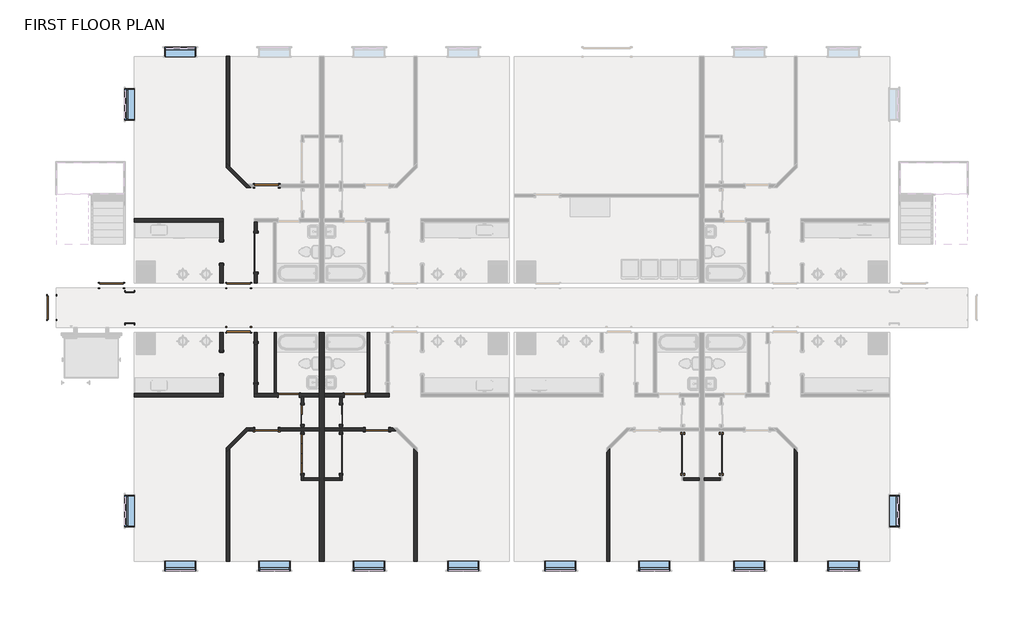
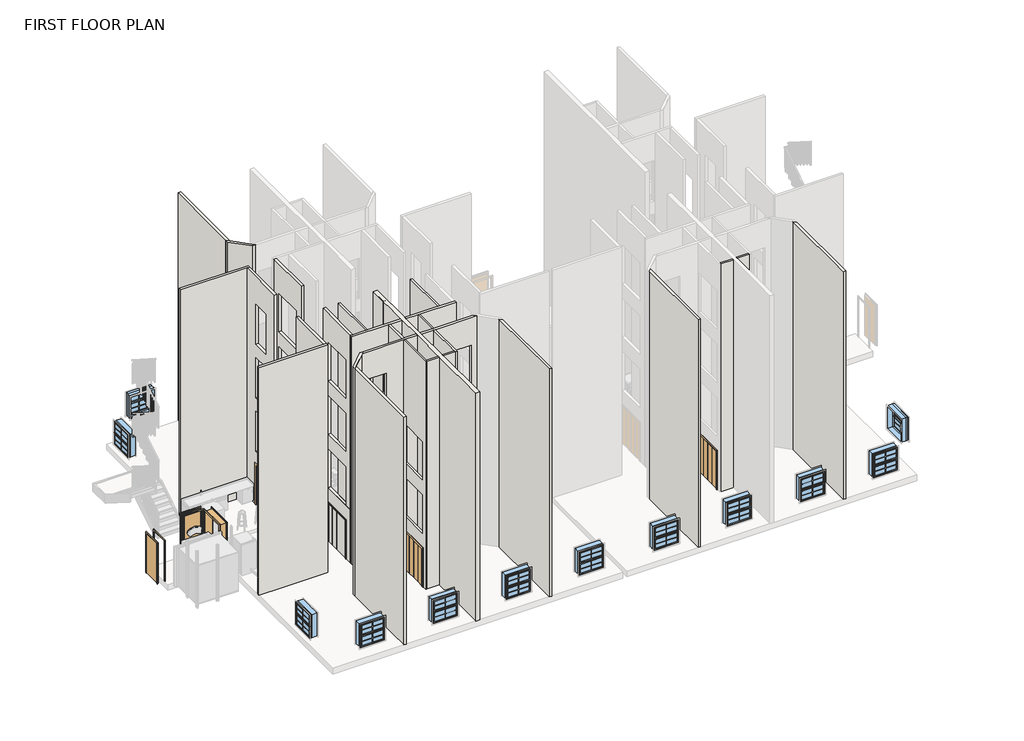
# One storey, part 1 of 7: 28 walls, 20 doors, 12 windows.
"""IFC4 building model written with IfcOpenShell, lengths in millimetres."""

from ifc_helpers import new_model, si_unit, frame, origin, origin_with_axes, place, context, project, spatial, polyline, outline, extrude, faceted_brep, transform, mapped, element, save
from components import door_3f50ce46, door_64f38517, door_5b7037ea, door_d932cd56, door_980512ef, door_37c67c65, door_ff2ed9a9, door_670c294a, door_5d578f69, m_single_flush_3_x_7_d4803db9, m_single_flush_3_x_7_38056b6e, door_dc1527fd, door_ed16ebbe, door_053de108, door_d5256492, door_6897db11, window_4464fd46, window_28d7aabf

model = new_model("IFC4")

# Units and contexts
model_context = context("Model", 3, world=origin())
ifc_project = project(units=[si_unit("LENGTHUNIT", "METRE", prefix="MILLI")], contexts=[model_context])

# Site, building, storey
site = spatial("IfcSite", under=ifc_project)
building = spatial("IfcBuilding", under=site)
storey = spatial("IfcBuildingStorey", under=building, Name="FIRST FLOOR PLAN", Elevation=0.0)

# Doors
placement = place(None, origin())
door_shape = door_3f50ce46(model_context)
element("IfcDoor", 1, ObjectType="Door-Bifold_2-Panel_Flush_SlimFold_Dunbarton : 2'- 6\" x 6' - 8\"", at=placement, inside=storey, context=model_context, shape_type="MappedRepresentation", body=[
    mapped(door_shape, transform((1351.2960171, 1175.3012881, 0.0), x_axis=(0.0, 1.0, 0.0), y_axis=(-1.0, 0.0, 0.0), z_axis=(0.0, 0.0, 1.0))),
])
door_2_shape = door_64f38517(model_context)
element("IfcDoor", 2, ObjectType="Door-Bifold_2-Panel_Flush_SlimFold_Dunbarton : 2'- 6\" x 6' - 8\"", at=placement, inside=storey, context=model_context, shape_type="MappedRepresentation", body=[
    mapped(door_2_shape, transform((2885.3209578, 1175.3012881, 0.0), x_axis=(0.0, 1.0, 0.0), y_axis=(-1.0, 0.0, 0.0), z_axis=(0.0, 0.0, 1.0))),
])
door_3_shape = door_5b7037ea(model_context)
element("IfcDoor", 3, ObjectType="Door-Bifold 4-Panel Flush SlimFold_Dunbarton : 5'- 0\" x 6' - 8\"", at=placement, inside=storey, context=model_context, shape_type="MappedRepresentation", body=[
    mapped(door_3_shape, transform((1351.2960171, -196.2987119, 0.0), x_axis=(0.0, 1.0, 0.0), y_axis=(-1.0, 0.0, 0.0), z_axis=(0.0, 0.0, 1.0))),
])
element("IfcDoor", 4, ObjectType="Door-Bifold 4-Panel Flush SlimFold_Dunbarton : 5'- 0\" x 6' - 8\"", at=placement, inside=storey, context=model_context, shape_type="MappedRepresentation", body=[
    mapped(door_3_shape, transform((16176.4960171, -196.2987119, 0.0), x_axis=(0.0, 1.0, 0.0), y_axis=(-1.0, 0.0, 0.0), z_axis=(0.0, 0.0, 1.0))),
])
door_4_shape = door_d932cd56(model_context)
element("IfcDoor", 5, ObjectType="Door-Bifold 4-Panel Flush SlimFold_Dunbarton : 5'- 0\" x 6' - 8\"", at=placement, inside=storey, context=model_context, shape_type="MappedRepresentation", body=[
    mapped(door_4_shape, transform((-466.3914829, 3345.4137881, 0.0), x_axis=(0.0, 1.0, 0.0), y_axis=(-1.0, 0.0, 0.0), z_axis=(0.0, 0.0, 1.0))),
])
door_5_shape = door_980512ef(model_context)
element("IfcDoor", 6, ObjectType="Door-Bifold 4-Panel Flush SlimFold_Dunbarton : 5'- 0\" x 6' - 8\"", at=placement, inside=storey, context=model_context, shape_type="MappedRepresentation", body=[
    mapped(door_5_shape, transform((-466.3914829, 7654.2137881, 0.0), x_axis=(0.0, -1.0, 0.0), y_axis=(1.0, 0.0, 0.0), z_axis=(0.0, 0.0, 1.0))),
])
door_6_shape = door_37c67c65(model_context)
element("IfcDoor", 7, ObjectType="Door-Bifold 4-Panel Flush SlimFold_Dunbarton : 5'- 0\" x 6' - 8\"", at=placement, inside=storey, context=model_context, shape_type="MappedRepresentation", body=[
    mapped(door_6_shape, transform((2885.3209578, -196.2987119, 0.0), x_axis=(0.0, 1.0, 0.0), y_axis=(-1.0, 0.0, 0.0), z_axis=(0.0, 0.0, 1.0))),
])
element("IfcDoor", 8, ObjectType="Door-Bifold 4-Panel Flush SlimFold_Dunbarton : 5'- 0\" x 6' - 8\"", at=placement, inside=storey, context=model_context, shape_type="MappedRepresentation", body=[
    mapped(door_6_shape, transform((17708.9209578, -196.2987119, 0.0), x_axis=(0.0, 1.0, 0.0), y_axis=(-1.0, 0.0, 0.0), z_axis=(0.0, 0.0, 1.0))),
])
door_7_shape = door_ff2ed9a9(model_context)
element("IfcDoor", 9, ObjectType="M_Opening-Cased : 2'-10\"", at=placement, inside=storey, context=model_context, shape_type="MappedRepresentation", body=[
    mapped(door_7_shape, transform((-1793.4540125, 7662.4024448, 0.0), x_axis=(0.0, 1.0, 0.0), y_axis=(-1.0, 0.0, 0.0), z_axis=(0.0, 0.0, 1.0))),
])
door_8_shape = door_670c294a(model_context)
element("IfcDoor", 10, ObjectType="M_Opening-Cased : 2'-10\"", at=placement, inside=storey, context=model_context, shape_type="MappedRepresentation", body=[
    mapped(door_8_shape, transform((-1793.4540125, 3337.2251313, 0.0), x_axis=(0.0, -1.0, 0.0), y_axis=(1.0, 0.0, 0.0), z_axis=(0.0, 0.0, 1.0))),
])
door_9_shape = door_5d578f69(model_context)
element("IfcDoor", 11, ObjectType="M_Opening-Cased : 4'-0\"", at=placement, inside=storey, context=model_context, shape_type="MappedRepresentation", body=[
    mapped(door_9_shape, transform((-5371.8915125, 5508.0024448, 0.0), x_axis=(0.0, 1.0, 0.0), y_axis=(-1.0, 0.0, 0.0), z_axis=(0.0, 0.0, 1.0))),
])
m_single_flush_3_x_7_shape = m_single_flush_3_x_7_d4803db9(model_context)
element("IfcDoor", 12, ObjectType="M_Single-Flush : 3' x 7'", at=placement, inside=storey, context=model_context, shape_type="MappedRepresentation", body=[
    mapped(m_single_flush_3_x_7_shape, transform((-29.5790125, 746.6762881, 0.0), x_axis=(-1.0, 0.0, 0.0), y_axis=(0.0, -1.0, 0.0), z_axis=(0.0, 0.0, 1.0))),
])
m_single_flush_3_x_7_2_shape = m_single_flush_3_x_7_38056b6e(model_context)
element("IfcDoor", 13, ObjectType="M_Single-Flush : 3' x 7'", at=placement, inside=storey, context=model_context, shape_type="MappedRepresentation", body=[
    mapped(m_single_flush_3_x_7_2_shape, transform((-29.5790125, 10252.9512881, 0.0), x_axis=(-1.0, 0.0, 0.0), y_axis=(0.0, -1.0, 0.0), z_axis=(0.0, 0.0, 1.0))),
])
element("IfcDoor", 14, ObjectType="M_Single-Flush : 3' x 7'", at=placement, inside=storey, context=model_context, shape_type="MappedRepresentation", body=[
    mapped(m_single_flush_3_x_7_2_shape, transform((4266.1959875, 746.6762881, 0.0), x_axis=(1.0, 0.0, 0.0), y_axis=(0.0, 1.0, 0.0), z_axis=(0.0, 0.0, 1.0))),
])
door_10_shape = door_dc1527fd(model_context)
element("IfcDoor", 15, ObjectType="Single-Flush : 32\" X 84\"", at=placement, inside=storey, context=model_context, shape_type="MappedRepresentation", body=[
    mapped(door_10_shape, transform((3402.5959875, 2089.7012881, 0.0), x_axis=(1.0, 0.0, 0.0), y_axis=(0.0, 1.0, 0.0), z_axis=(0.0, 0.0, 1.0))),
])
door_11_shape = door_ed16ebbe(model_context)
element("IfcDoor", 16, ObjectType="Single-Flush : 32\" X 84\"", at=placement, inside=storey, context=model_context, shape_type="MappedRepresentation", body=[
    mapped(door_11_shape, transform((834.0209875, 2089.7012881, 0.0), x_axis=(-1.0, 0.0, 0.0), y_axis=(0.0, -1.0, 0.0), z_axis=(0.0, 0.0, 1.0))),
])
door_12_shape = door_053de108(model_context)
element("IfcDoor", 17, ObjectType="Single-Flush : 36' x 84\"", at=placement, inside=storey, context=model_context, shape_type="MappedRepresentation", body=[
    mapped(door_12_shape, transform((-6080.2915125, 6363.4137881, 0.0), x_axis=(1.0, 0.0, 0.0), y_axis=(0.0, 1.0, 0.0), z_axis=(0.0, 0.0, 1.0))),
])
element("IfcDoor", 18, ObjectType="Single-Flush : 36' x 84\"", at=placement, inside=storey, context=model_context, shape_type="MappedRepresentation", body=[
    mapped(door_12_shape, transform((-1121.9415125, 4636.2137881, 0.0), x_axis=(-1.0, 0.0, 0.0), y_axis=(0.0, -1.0, 0.0), z_axis=(0.0, 0.0, 1.0))),
])
door_13_shape = door_d5256492(model_context)
element("IfcDoor", 19, ObjectType="Single-Flush : 36' x 84\"", at=placement, inside=storey, context=model_context, shape_type="MappedRepresentation", body=[
    mapped(door_13_shape, transform((-1121.9415125, 6363.4137881, 0.0), x_axis=(-1.0, 0.0, 0.0), y_axis=(0.0, -1.0, 0.0), z_axis=(0.0, 0.0, 1.0))),
])
door_14_shape = door_6897db11(model_context)
element("IfcDoor", 20, ObjectType="Single-Flush : 36' x 84\"", at=placement, inside=storey, context=model_context, shape_type="MappedRepresentation", body=[
    mapped(door_14_shape, transform((-8412.806756, 5499.8137881, 0.0), x_axis=(0.0, -1.0, 0.0), y_axis=(1.0, 0.0, 0.0), z_axis=(0.0, 0.0, 1.0))),
])

# Walls
element("IfcWall", 21, ObjectType="A30A - 8\" MASONRY WALL", at=placement, inside=storey, context=model_context, shape_type="Brep", body=[
    faceted_brep([(2215.3084875, -4401.5862119, 0.0), (2215.3084875, -1228.1737119, 0.0), (2215.3084875, -1139.2737119, 0.0), (2215.3084875, 684.7637881, 0.0), (2215.3084875, 808.5887881, 0.0), (2215.3084875, 2027.7887881, 0.0), (2215.3084875, 2151.6137881, 0.0), (2215.3084875, 4539.2137881, 0.0), (2215.3084875, 4539.2137881, 12141.2), (2215.3084875, 2151.6137881, 12141.2), (2215.3084875, 2027.7887881, 12141.2), (2215.3084875, 808.5887881, 12141.2), (2215.3084875, 684.7637881, 12141.2), (2215.3084875, -1139.2737119, 12141.2), (2215.3084875, -1228.1737119, 12141.2), (2215.3084875, -4401.5862119, 12141.2), (2021.3084875, -4401.5862119, 0.0), (2021.3084875, -4401.5862119, 12141.2), (2021.3084875, -1228.1737119, 12141.2), (2021.3084875, -1139.2737119, 12141.2), (2021.3084875, 684.7637881, 12141.2), (2021.3084875, 808.5887881, 12141.2), (2021.3084875, 2027.7887881, 12141.2), (2021.3084875, 2151.6137881, 12141.2), (2021.3084875, 4539.2137881, 12141.2), (2021.3084875, 4539.2137881, 0.0), (2021.3084875, 2151.6137881, 0.0), (2021.3084875, 2027.7887881, 0.0), (2021.3084875, 808.5887881, 0.0), (2021.3084875, 684.7637881, 0.0), (2021.3084875, -1139.2737119, 0.0), (2021.3084875, -1228.1737119, 0.0)], [[[0, 1, 2, 3, 4, 5, 6, 7, 8, 9, 10, 11, 12, 13, 14, 15]], [[16, 17, 18, 19, 20, 21, 22, 23, 24, 25, 26, 27, 28, 29, 30, 31]], [[7, 6, 5, 4, 3, 2, 1, 0, 16, 31, 30, 29, 28, 27, 26, 25]], [[15, 14, 13, 12, 11, 10, 9, 8, 24, 23, 22, 21, 20, 19, 18, 17]], [[0, 15, 17, 16]], [[8, 7, 25, 24]]]),
])
element("IfcWall", 22, ObjectType="Generic - 3 1/2\"", at=placement, inside=storey, context=model_context, shape_type="Brep", body=[
    faceted_brep([(1322.8084875, -1228.1737119, 0.0), (1322.8084875, -1228.1737119, 12141.2), (1322.8084875, 684.7637881, 12141.2), (1322.8084875, 684.7637881, 0.0), (1322.8084875, 565.7012881, 0.0), (1322.8084875, 565.7012881, 2032.0), (1322.8084875, -958.2987119, 2032.0), (1322.8084875, -958.2987119, 0.0), (1322.8084875, 565.7012881, 2844.8), (1322.8084875, 565.7012881, 4876.8), (1322.8084875, -958.2987119, 4876.8), (1322.8084875, -958.2987119, 2844.8), (1322.8084875, 565.7012881, 5689.6), (1322.8084875, 565.7012881, 7721.6), (1322.8084875, -958.2987119, 7721.6), (1322.8084875, -958.2987119, 5689.6), (1411.7084875, -1228.1737119, 12141.2), (1411.7084875, -1228.1737119, 0.0), (1411.7084875, -1139.2737119, 0.0), (1411.7084875, -958.2987119, 0.0), (1411.7084875, -958.2987119, 2032.0), (1411.7084875, 565.7012881, 2032.0), (1411.7084875, 565.7012881, 0.0), (1411.7084875, 684.7637881, 0.0), (1411.7084875, 684.7637881, 12141.2), (1411.7084875, -1139.2737119, 12141.2), (1411.7084875, 565.7012881, 4876.8), (1411.7084875, 565.7012881, 2844.8), (1411.7084875, -958.2987119, 2844.8), (1411.7084875, -958.2987119, 4876.8), (1411.7084875, 565.7012881, 7721.6), (1411.7084875, 565.7012881, 5689.6), (1411.7084875, -958.2987119, 5689.6), (1411.7084875, -958.2987119, 7721.6)], [[[0, 1, 2, 3, 4, 5, 6, 7], [8, 9, 10, 11], [12, 13, 14, 15]], [[16, 17, 18, 19, 20, 21, 22, 23, 24, 25], [26, 27, 28, 29], [30, 31, 32, 33]], [[17, 0, 7, 19, 18]], [[22, 4, 3, 23]], [[1, 16, 25, 24, 2]], [[1, 0, 17, 16]], [[21, 5, 4, 22]], [[5, 21, 20, 6]], [[6, 20, 19, 7]], [[3, 2, 24, 23]], [[9, 8, 27, 26]], [[10, 9, 26, 29]], [[11, 10, 29, 28]], [[8, 11, 28, 27]], [[13, 12, 31, 30]], [[14, 13, 30, 33]], [[15, 14, 33, 32]], [[12, 15, 32, 31]]]),
    faceted_brep([(1322.8084875, 2027.7887881, 12141.2), (1322.8084875, 2027.7887881, 0.0), (1322.8084875, 1708.7012881, 0.0), (1322.8084875, 1708.7012881, 2032.0), (1322.8084875, 946.7012881, 2032.0), (1322.8084875, 946.7012881, 0.0), (1322.8084875, 808.5887881, 0.0), (1322.8084875, 808.5887881, 12141.2), (1322.8084875, 1708.7012881, 2844.8), (1322.8084875, 1708.7012881, 4876.8), (1322.8084875, 946.7012881, 4876.8), (1322.8084875, 946.7012881, 2844.8), (1322.8084875, 1708.7012881, 5689.6), (1322.8084875, 1708.7012881, 7721.6), (1322.8084875, 946.7012881, 7721.6), (1322.8084875, 946.7012881, 5689.6), (1411.7084875, 2027.7887881, 0.0), (1411.7084875, 2027.7887881, 12141.2), (1411.7084875, 808.5887881, 12141.2), (1411.7084875, 808.5887881, 0.0), (1411.7084875, 946.7012881, 0.0), (1411.7084875, 946.7012881, 2032.0), (1411.7084875, 1708.7012881, 2032.0), (1411.7084875, 1708.7012881, 0.0), (1411.7084875, 1708.7012881, 4876.8), (1411.7084875, 1708.7012881, 2844.8), (1411.7084875, 946.7012881, 2844.8), (1411.7084875, 946.7012881, 4876.8), (1411.7084875, 1708.7012881, 7721.6), (1411.7084875, 1708.7012881, 5689.6), (1411.7084875, 946.7012881, 5689.6), (1411.7084875, 946.7012881, 7721.6)], [[[0, 1, 2, 3, 4, 5, 6, 7], [8, 9, 10, 11], [12, 13, 14, 15]], [[16, 17, 18, 19, 20, 21, 22, 23], [24, 25, 26, 27], [28, 29, 30, 31]], [[1, 16, 23, 2]], [[5, 20, 19, 6]], [[17, 0, 7, 18]], [[7, 6, 19, 18]], [[1, 0, 17, 16]], [[21, 4, 3, 22]], [[4, 21, 20, 5]], [[22, 3, 2, 23]], [[9, 8, 25, 24]], [[10, 9, 24, 27]], [[11, 10, 27, 26]], [[8, 11, 26, 25]], [[13, 12, 29, 28]], [[14, 13, 28, 31]], [[15, 14, 31, 30]], [[12, 15, 30, 29]]]),
])
element("IfcWall", 23, ObjectType="Generic - 3 1/2\"", at=placement, inside=storey, context=model_context, shape_type="SweptSolid", body=[
    extrude(outline(polyline([(2021.3084875, -1228.1737119), (1411.7084875, -1228.1737119), (1411.7084875, -1139.2737119), (2021.3084875, -1139.2737119), (2021.3084875, -1228.1737119)])), origin_with_axes(), (0.0, 0.0, 1.0), 12141.2),
])
element("IfcWall", 24, ObjectType="Generic - 3 1/2\"", at=placement, inside=storey, context=model_context, shape_type="Brep", body=[
    faceted_brep([(2824.9084875, -1228.1737119, 0.0), (2824.9084875, -1228.1737119, 12141.2), (2824.9084875, -1139.2737119, 12141.2), (2824.9084875, 684.7637881, 12141.2), (2824.9084875, 684.7637881, 0.0), (2824.9084875, 565.7012881, 0.0), (2824.9084875, 565.7012881, 2032.0), (2824.9084875, -958.2987119, 2032.0), (2824.9084875, -958.2987119, 0.0), (2824.9084875, -1139.2737119, 0.0), (2824.9084875, 565.7012881, 2844.8), (2824.9084875, 565.7012881, 4876.8), (2824.9084875, -958.2987119, 4876.8), (2824.9084875, -958.2987119, 2844.8), (2824.9084875, 565.7012881, 5689.6), (2824.9084875, 565.7012881, 7721.6), (2824.9084875, -958.2987119, 7721.6), (2824.9084875, -958.2987119, 5689.6), (2913.8084875, -1228.1737119, 12141.2), (2913.8084875, -1228.1737119, 0.0), (2913.8084875, -958.2987119, 0.0), (2913.8084875, -958.2987119, 2032.0), (2913.8084875, 565.7012881, 2032.0), (2913.8084875, 565.7012881, 0.0), (2913.8084875, 684.7637881, 0.0), (2913.8084875, 684.7637881, 12141.2), (2913.8084875, 565.7012881, 4876.8), (2913.8084875, 565.7012881, 2844.8), (2913.8084875, -958.2987119, 2844.8), (2913.8084875, -958.2987119, 4876.8), (2913.8084875, 565.7012881, 7721.6), (2913.8084875, 565.7012881, 5689.6), (2913.8084875, -958.2987119, 5689.6), (2913.8084875, -958.2987119, 7721.6)], [[[0, 1, 2, 3, 4, 5, 6, 7, 8, 9], [10, 11, 12, 13], [14, 15, 16, 17]], [[18, 19, 20, 21, 22, 23, 24, 25], [26, 27, 28, 29], [30, 31, 32, 33]], [[19, 0, 9, 8, 20]], [[23, 5, 4, 24]], [[1, 18, 25, 3, 2]], [[1, 0, 19, 18]], [[22, 6, 5, 23]], [[6, 22, 21, 7]], [[7, 21, 20, 8]], [[4, 3, 25, 24]], [[11, 10, 27, 26]], [[12, 11, 26, 29]], [[13, 12, 29, 28]], [[10, 13, 28, 27]], [[15, 14, 31, 30]], [[16, 15, 30, 33]], [[17, 16, 33, 32]], [[14, 17, 32, 31]]]),
    faceted_brep([(2824.9084875, 2027.7887881, 12141.2), (2824.9084875, 2027.7887881, 0.0), (2824.9084875, 1708.7012881, 0.0), (2824.9084875, 1708.7012881, 2032.0), (2824.9084875, 946.7012881, 2032.0), (2824.9084875, 946.7012881, 0.0), (2824.9084875, 808.5887881, 0.0), (2824.9084875, 808.5887881, 12141.2), (2824.9084875, 1708.7012881, 2844.8), (2824.9084875, 1708.7012881, 4876.8), (2824.9084875, 946.7012881, 4876.8), (2824.9084875, 946.7012881, 2844.8), (2824.9084875, 1708.7012881, 5689.6), (2824.9084875, 1708.7012881, 7721.6), (2824.9084875, 946.7012881, 7721.6), (2824.9084875, 946.7012881, 5689.6), (2913.8084875, 2027.7887881, 0.0), (2913.8084875, 2027.7887881, 12141.2), (2913.8084875, 808.5887881, 12141.2), (2913.8084875, 808.5887881, 0.0), (2913.8084875, 946.7012881, 0.0), (2913.8084875, 946.7012881, 2032.0), (2913.8084875, 1708.7012881, 2032.0), (2913.8084875, 1708.7012881, 0.0), (2913.8084875, 1708.7012881, 4876.8), (2913.8084875, 1708.7012881, 2844.8), (2913.8084875, 946.7012881, 2844.8), (2913.8084875, 946.7012881, 4876.8), (2913.8084875, 1708.7012881, 7721.6), (2913.8084875, 1708.7012881, 5689.6), (2913.8084875, 946.7012881, 5689.6), (2913.8084875, 946.7012881, 7721.6)], [[[0, 1, 2, 3, 4, 5, 6, 7], [8, 9, 10, 11], [12, 13, 14, 15]], [[16, 17, 18, 19, 20, 21, 22, 23], [24, 25, 26, 27], [28, 29, 30, 31]], [[1, 16, 23, 2]], [[5, 20, 19, 6]], [[17, 0, 7, 18]], [[7, 6, 19, 18]], [[1, 0, 17, 16]], [[21, 4, 3, 22]], [[4, 21, 20, 5]], [[22, 3, 2, 23]], [[9, 8, 25, 24]], [[10, 9, 24, 27]], [[11, 10, 27, 26]], [[8, 11, 26, 25]], [[13, 12, 29, 28]], [[14, 13, 28, 31]], [[15, 14, 31, 30]], [[12, 15, 30, 29]]]),
])
element("IfcWall", 25, ObjectType="Generic - 3 1/2\"", at=placement, inside=storey, context=model_context, shape_type="SweptSolid", body=[
    extrude(outline(polyline([(2215.3084875, -1139.2737119), (2824.9084875, -1139.2737119), (2824.9084875, -1228.1737119), (2215.3084875, -1228.1737119), (2215.3084875, -1139.2737119)])), origin_with_axes(), (0.0, 0.0, 1.0), 12141.2),
])
element("IfcWall", 26, ObjectType="Generic - 3 1/2\"", at=placement, inside=storey, context=model_context, shape_type="SweptSolid", body=[
    extrude(outline(polyline([(17039.7084875, -1139.2737119), (17648.5084875, -1139.2737119), (17648.5084875, -1228.1737119), (17039.7084875, -1228.1737119), (17039.7084875, -1139.2737119)])), origin_with_axes(), (0.0, 0.0, 1.0), 12141.2),
])
element("IfcWall", 27, ObjectType="Generic - 3 1/2\"", at=placement, inside=storey, context=model_context, shape_type="SweptSolid", body=[
    extrude(outline(polyline([(16845.7084875, -1228.1737119), (16236.9084875, -1228.1737119), (16236.9084875, -1139.2737119), (16845.7084875, -1139.2737119), (16845.7084875, -1228.1737119)])), origin_with_axes(), (0.0, 0.0, 1.0), 12141.2),
])
element("IfcWall", 28, ObjectType="Generic - 3 1/2\"", at=placement, inside=storey, context=model_context, shape_type="SweptSolid", body=[
    extrude(outline(polyline([(344.9084875, 4539.2137881), (344.9084875, 2151.6137881), (256.0084875, 2151.6137881), (256.0084875, 4539.2137881), (344.9084875, 4539.2137881)])), origin_with_axes(), (0.0, 0.0, 1.0), 12141.2),
])
element("IfcWall", 29, ObjectType="Generic - 3 1/2\"", at=placement, inside=storey, context=model_context, shape_type="SweptSolid", body=[
    extrude(outline(polyline([(3980.6084875, 4539.2137881), (3980.6084875, 2151.6137881), (3891.7084875, 2151.6137881), (3891.7084875, 4539.2137881), (3980.6084875, 4539.2137881)])), origin_with_axes(), (0.0, 0.0, 1.0), 12141.2),
])
element("IfcWall", 30, ObjectType="Generic - 4 7/8\"", at=placement, inside=storey, context=model_context, shape_type="SweptSolid", body=[
    extrude(outline(polyline([(-1601.2040125, 11142.469227), (-1601.2040125, 15304.2137881), (-1477.3790125, 15304.2137881), (-1477.3790125, 11018.644227), (-1601.2040125, 11142.469227)])), origin_with_axes(), (0.0, 0.0, 1.0), 12141.2),
])
element("IfcWall", 31, ObjectType="Generic - 4 7/8\"", at=placement, inside=storey, context=model_context, shape_type="Brep", body=[
    faceted_brep([(-5196.8915125, 8848.0137881, 0.0), (-1855.3665125, 8848.0137881, 0.0), (-1731.5415125, 8848.0137881, 0.0), (-1731.5415125, 8848.0137881, 12141.2), (-1855.3665125, 8848.0137881, 12141.2), (-5196.8915125, 8848.0137881, 12141.2), (-5196.8915125, 8971.8387881, 0.0), (-5196.8915125, 8971.8387881, 12141.2), (-1731.5415125, 8971.8387881, 12141.2), (-1731.5415125, 8971.8387881, 0.0)], [[[0, 1, 2, 3, 4, 5]], [[6, 7, 8, 9]], [[2, 1, 0, 6, 9]], [[5, 4, 3, 8, 7]], [[0, 5, 7, 6]], [[3, 2, 9, 8]]]),
])
element("IfcWall", 32, ObjectType="Generic - 4 7/8\"", at=placement, inside=storey, context=model_context, shape_type="SweptSolid", body=[
    extrude(outline(polyline([(8848.0137881, 0.0), (8086.0137881, 0.0), (8086.0137881, 2133.6), (7222.4137881, 2133.6), (7222.4137881, 0.0), (6460.4137881, 0.0), (6460.4137881, 12141.2), (8848.0137881, 12141.2), (8848.0137881, 0.0)]), holes=[polyline([(7222.4137881, 4978.4), (7222.4137881, 2844.8), (8086.0137881, 2844.8), (8086.0137881, 4978.4), (7222.4137881, 4978.4)]), polyline([(7222.4137881, 7823.2), (7222.4137881, 5689.6), (8086.0137881, 5689.6), (8086.0137881, 7823.2), (7222.4137881, 7823.2)]), polyline([(7222.4137881, 10668.0), (7222.4137881, 8534.4), (8086.0137881, 8534.4), (8086.0137881, 10668.0), (7222.4137881, 10668.0)])]), frame((-1855.3665125, 0.0, 0.0), z_axis=(1.0, 0.0, 0.0), x_axis=(0.0, 1.0, 0.0)), (0.0, 0.0, 1.0), 123.825),
])
element("IfcWall", 33, ObjectType="Generic - 4 7/8\"", at=placement, inside=storey, context=model_context, shape_type="SweptSolid", body=[
    extrude(outline(polyline([(6460.4137881, 12141.2), (8848.0137881, 12141.2), (8848.0137881, 0.0), (8416.2137881, 0.0), (8416.2137881, 2032.0), (6892.2137881, 2032.0), (6892.2137881, 0.0), (6460.4137881, 0.0), (6460.4137881, 12141.2)]), holes=[polyline([(8416.2137881, 2844.8), (8416.2137881, 4876.8), (6892.2137881, 4876.8), (6892.2137881, 2844.8), (8416.2137881, 2844.8)]), polyline([(8416.2137881, 5689.6), (8416.2137881, 7721.6), (6892.2137881, 7721.6), (6892.2137881, 5689.6), (8416.2137881, 5689.6)]), polyline([(8416.2137881, 8534.4), (8416.2137881, 10566.4), (6892.2137881, 10566.4), (6892.2137881, 8534.4), (8416.2137881, 8534.4)])]), frame((-512.3415125, 0.0, 0.0), z_axis=(1.0, 0.0, 0.0), x_axis=(0.0, 1.0, 0.0)), (0.0, 0.0, 1.0), 123.825),
])
element("IfcWall", 34, ObjectType="Generic - 4 7/8\"", at=placement, inside=storey, context=model_context, shape_type="Brep", body=[
    faceted_brep([(-649.7735736, 10191.0387881, 0.0), (-773.5985736, 10314.8637881, 0.0), (-1477.3790125, 11018.644227, 0.0), (-1601.2040125, 11142.469227, 0.0), (-1601.2040125, 11142.469227, 12141.2), (-1477.3790125, 11018.644227, 12141.2), (-773.5985736, 10314.8637881, 12141.2), (-649.7735736, 10191.0387881, 12141.2), (-824.888568, 10191.0387881, 0.0), (-824.888568, 10191.0387881, 12141.2), (-1601.2040125, 10967.3542326, 12141.2), (-1601.2040125, 10967.3542326, 0.0)], [[[0, 1, 2, 3, 4, 5, 6, 7]], [[8, 9, 10, 11]], [[3, 2, 1, 0, 8, 11]], [[7, 6, 5, 4, 10, 9]], [[0, 7, 9, 8]], [[4, 3, 11, 10]]]),
])
element("IfcWall", 35, ObjectType="Generic - 4 7/8\"", at=placement, inside=storey, context=model_context, shape_type="SweptSolid", body=[
    extrude(outline(polyline([(-1477.3790125, -19.0166509), (-1477.3790125, -4401.5862119), (-1601.2040125, -4401.5862119), (-1601.2040125, -142.8416509), (-1477.3790125, -19.0166509)])), origin_with_axes(), (0.0, 0.0, 1.0), 12141.2),
])
element("IfcWall", 36, ObjectType="Generic - 4 7/8\"", at=placement, inside=storey, context=model_context, shape_type="Brep", body=[
    faceted_brep([(-512.3415125, 2027.7887881, 0.0), (427.6209875, 2027.7887881, 0.0), (427.6209875, 2027.7887881, 2133.6), (1240.4209875, 2027.7887881, 2133.6), (1240.4209875, 2027.7887881, 0.0), (1322.8084875, 2027.7887881, 0.0), (1411.7084875, 2027.7887881, 0.0), (2021.3084875, 2027.7887881, 0.0), (2021.3084875, 2027.7887881, 12141.2), (1411.7084875, 2027.7887881, 12141.2), (1322.8084875, 2027.7887881, 12141.2), (-512.3415125, 2027.7887881, 12141.2), (1246.6084875, 2027.7887881, 2844.8), (433.8084875, 2027.7887881, 2844.8), (433.8084875, 2027.7887881, 4978.4), (1246.6084875, 2027.7887881, 4978.4), (1246.6084875, 2027.7887881, 5689.6), (433.8084875, 2027.7887881, 5689.6), (433.8084875, 2027.7887881, 7823.2), (1246.6084875, 2027.7887881, 7823.2), (1246.6084875, 2027.7887881, 8534.4), (433.8084875, 2027.7887881, 8534.4), (433.8084875, 2027.7887881, 10668.0), (1246.6084875, 2027.7887881, 10668.0), (427.6209875, 2151.6137881, 2133.6), (427.6209875, 2151.6137881, 0.0), (344.9084875, 2151.6137881, 0.0), (256.0084875, 2151.6137881, 0.0), (-388.5165125, 2151.6137881, 0.0), (-512.3415125, 2151.6137881, 0.0), (-512.3415125, 2151.6137881, 2844.8), (-512.3415125, 2151.6137881, 12141.2), (-388.5165125, 2151.6137881, 12141.2), (256.0084875, 2151.6137881, 12141.2), (344.9084875, 2151.6137881, 12141.2), (2021.3084875, 2151.6137881, 12141.2), (2021.3084875, 2151.6137881, 0.0), (1240.4209875, 2151.6137881, 0.0), (1240.4209875, 2151.6137881, 2133.6), (1246.6084875, 2151.6137881, 2844.8), (1246.6084875, 2151.6137881, 4978.4), (433.8084875, 2151.6137881, 4978.4), (433.8084875, 2151.6137881, 2844.8), (1246.6084875, 2151.6137881, 5689.6), (1246.6084875, 2151.6137881, 7823.2), (433.8084875, 2151.6137881, 7823.2), (433.8084875, 2151.6137881, 5689.6), (1246.6084875, 2151.6137881, 8534.4), (1246.6084875, 2151.6137881, 10668.0), (433.8084875, 2151.6137881, 10668.0), (433.8084875, 2151.6137881, 8534.4)], [[[0, 1, 2, 3, 4, 5, 6, 7, 8, 9, 10, 11], [12, 13, 14, 15], [16, 17, 18, 19], [20, 21, 22, 23]], [[24, 25, 26, 27, 28, 29, 30, 31, 32, 33, 34, 35, 36, 37, 38], [39, 40, 41, 42], [43, 44, 45, 46], [47, 48, 49, 50]], [[37, 36, 7, 6, 5, 4]], [[29, 28, 27, 26, 25, 1, 0]], [[11, 10, 9, 8, 35, 34, 33, 32, 31]], [[2, 1, 25, 24]], [[3, 2, 24, 38]], [[4, 3, 38, 37]], [[0, 11, 31, 30, 29]], [[8, 7, 36, 35]], [[13, 12, 39, 42]], [[14, 13, 42, 41]], [[15, 14, 41, 40]], [[12, 15, 40, 39]], [[17, 16, 43, 46]], [[18, 17, 46, 45]], [[19, 18, 45, 44]], [[16, 19, 44, 43]], [[21, 20, 47, 50]], [[22, 21, 50, 49]], [[23, 22, 49, 48]], [[20, 23, 48, 47]]]),
])
element("IfcWall", 37, ObjectType="Generic - 4 7/8\"", at=placement, inside=storey, context=model_context, shape_type="Brep", body=[
    faceted_brep([(-5196.8915125, 2027.7887881, 0.0), (-1731.5415125, 2027.7887881, 0.0), (-1731.5415125, 2027.7887881, 12141.2), (-5196.8915125, 2027.7887881, 12141.2), (-5196.8915125, 2151.6137881, 0.0), (-5196.8915125, 2151.6137881, 12141.2), (-1855.3665125, 2151.6137881, 12141.2), (-1731.5415125, 2151.6137881, 12141.2), (-1731.5415125, 2151.6137881, 0.0), (-1855.3665125, 2151.6137881, 0.0)], [[[0, 1, 2, 3]], [[4, 5, 6, 7, 8, 9]], [[1, 0, 4, 9, 8]], [[3, 2, 7, 6, 5]], [[2, 1, 8, 7]], [[0, 3, 5, 4]]]),
])
element("IfcWall", 38, ObjectType="Generic - 4 7/8\"", at=placement, inside=storey, context=model_context, shape_type="SweptSolid", body=[
    extrude(outline(polyline([(2913.6137881, 2133.6), (2913.6137881, 0.0), (2151.6137881, 0.0), (2151.6137881, 12141.2), (4539.2137881, 12141.2), (4539.2137881, 0.0), (3777.2137881, 0.0), (3777.2137881, 2133.6), (2913.6137881, 2133.6)]), holes=[polyline([(3777.2137881, 4978.4), (2862.8137881, 4978.4), (2862.8137881, 2844.8), (3777.2137881, 2844.8), (3777.2137881, 4978.4)]), polyline([(3777.2137881, 7823.2), (2862.8137881, 7823.2), (2862.8137881, 5689.6), (3777.2137881, 5689.6), (3777.2137881, 7823.2)]), polyline([(3777.2137881, 10668.0), (2862.8137881, 10668.0), (2862.8137881, 8534.4), (3777.2137881, 8534.4), (3777.2137881, 10668.0)])]), frame((-1855.3665125, 0.0, 0.0), z_axis=(1.0, 0.0, 0.0), x_axis=(0.0, 1.0, 0.0)), (0.0, 0.0, 1.0), 123.825),
])
element("IfcWall", 39, ObjectType="Generic - 4 7/8\"", at=placement, inside=storey, context=model_context, shape_type="SweptSolid", body=[
    extrude(outline(polyline([(2151.6137881, 12141.2), (4539.2137881, 12141.2), (4539.2137881, 0.0), (4065.2032758, 0.0), (4065.2032758, 2032.0), (2541.2032758, 2032.0), (2541.2032758, 0.0), (2151.6137881, 0.0), (2151.6137881, 12141.2)]), holes=[polyline([(4107.4137881, 2844.8), (4107.4137881, 4876.8), (2583.4137881, 4876.8), (2583.4137881, 2844.8), (4107.4137881, 2844.8)]), polyline([(4107.4137881, 5689.6), (4107.4137881, 7721.6), (2583.4137881, 7721.6), (2583.4137881, 5689.6), (4107.4137881, 5689.6)]), polyline([(4107.4137881, 8534.4), (4107.4137881, 10566.4), (2583.4137881, 10566.4), (2583.4137881, 8534.4), (4107.4137881, 8534.4)])]), frame((-512.3415125, 0.0, 0.0), z_axis=(1.0, 0.0, 0.0), x_axis=(0.0, 1.0, 0.0)), (0.0, 0.0, 1.0), 123.825),
])
element("IfcWall", 40, ObjectType="Generic - 4 7/8\"", at=placement, inside=storey, context=model_context, shape_type="Brep", body=[
    faceted_brep([(-486.7790125, 808.5887881, 2133.6), (-486.7790125, 808.5887881, 0.0), (-649.7735736, 808.5887881, 0.0), (-649.7735736, 808.5887881, 12141.2), (1322.8084875, 808.5887881, 12141.2), (1411.7084875, 808.5887881, 12141.2), (2021.3084875, 808.5887881, 12141.2), (2021.3084875, 808.5887881, 0.0), (1411.7084875, 808.5887881, 0.0), (1322.8084875, 808.5887881, 0.0), (427.6209875, 808.5887881, 0.0), (427.6209875, 808.5887881, 2133.6), (433.8084875, 808.5887881, 2844.8), (433.8084875, 808.5887881, 4978.4), (-480.5915125, 808.5887881, 4978.4), (-480.5915125, 808.5887881, 2844.8), (433.8084875, 808.5887881, 5689.6), (433.8084875, 808.5887881, 7823.2), (-480.5915125, 808.5887881, 7823.2), (-480.5915125, 808.5887881, 5689.6), (433.8084875, 808.5887881, 8534.4), (433.8084875, 808.5887881, 10668.0), (-480.5915125, 808.5887881, 10668.0), (-480.5915125, 808.5887881, 8534.4), (-773.5985736, 684.7637881, 0.0), (-486.7790125, 684.7637881, 0.0), (-486.7790125, 684.7637881, 2133.6), (427.6209875, 684.7637881, 2133.6), (427.6209875, 684.7637881, 0.0), (1322.8084875, 684.7637881, 0.0), (1411.7084875, 684.7637881, 0.0), (2021.3084875, 684.7637881, 0.0), (2021.3084875, 684.7637881, 12141.2), (1411.7084875, 684.7637881, 12141.2), (1322.8084875, 684.7637881, 12141.2), (-773.5985736, 684.7637881, 12141.2), (433.8084875, 684.7637881, 2844.8), (-480.5915125, 684.7637881, 2844.8), (-480.5915125, 684.7637881, 4978.4), (433.8084875, 684.7637881, 4978.4), (433.8084875, 684.7637881, 5689.6), (-480.5915125, 684.7637881, 5689.6), (-480.5915125, 684.7637881, 7823.2), (433.8084875, 684.7637881, 7823.2), (433.8084875, 684.7637881, 8534.4), (-480.5915125, 684.7637881, 8534.4), (-480.5915125, 684.7637881, 10668.0), (433.8084875, 684.7637881, 10668.0)], [[[0, 1, 2, 3, 4, 5, 6, 7, 8, 9, 10, 11], [12, 13, 14, 15], [16, 17, 18, 19], [20, 21, 22, 23]], [[24, 25, 26, 27, 28, 29, 30, 31, 32, 33, 34, 35], [36, 37, 38, 39], [40, 41, 42, 43], [44, 45, 46, 47]], [[2, 1, 25, 24]], [[10, 9, 8, 7, 31, 30, 29, 28]], [[6, 5, 4, 3, 35, 34, 33, 32]], [[26, 25, 1, 0]], [[27, 26, 0, 11]], [[28, 27, 11, 10]], [[7, 6, 32, 31]], [[3, 2, 24, 35]], [[37, 36, 12, 15]], [[38, 37, 15, 14]], [[39, 38, 14, 13]], [[36, 39, 13, 12]], [[41, 40, 16, 19]], [[42, 41, 19, 18]], [[43, 42, 18, 17]], [[40, 43, 17, 16]], [[45, 44, 20, 23]], [[46, 45, 23, 22]], [[47, 46, 22, 21]], [[44, 47, 21, 20]]]),
])
element("IfcWall", 41, ObjectType="Generic - 4 7/8\"", at=placement, inside=storey, context=model_context, shape_type="SweptSolid", body=[
    extrude(outline(polyline([(5837.8209875, -142.8416509), (5837.8209875, -4401.5862119), (5713.9959875, -4401.5862119), (5713.9959875, -19.0166509), (5837.8209875, -142.8416509)])), origin_with_axes(), (0.0, 0.0, 1.0), 12141.2),
])
element("IfcWall", 42, ObjectType="Generic - 4 7/8\"", at=placement, inside=storey, context=model_context, shape_type="Brep", body=[
    faceted_brep([(4748.9584875, 2151.6137881, 0.0), (4625.1334875, 2151.6137881, 0.0), (3980.6084875, 2151.6137881, 0.0), (3891.7084875, 2151.6137881, 0.0), (3808.9959875, 2151.6137881, 0.0), (3808.9959875, 2151.6137881, 2133.6), (2996.1959875, 2151.6137881, 2133.6), (2996.1959875, 2151.6137881, 0.0), (2215.3084875, 2151.6137881, 0.0), (2215.3084875, 2151.6137881, 12141.2), (3891.7084875, 2151.6137881, 12141.2), (3980.6084875, 2151.6137881, 12141.2), (4625.1334875, 2151.6137881, 12141.2), (4748.9584875, 2151.6137881, 12141.2), (4748.9584875, 2151.6137881, 2844.8), (2990.0084875, 2151.6137881, 2844.8), (3802.8084875, 2151.6137881, 2844.8), (3802.8084875, 2151.6137881, 4978.4), (2990.0084875, 2151.6137881, 4978.4), (2990.0084875, 2151.6137881, 5689.6), (3802.8084875, 2151.6137881, 5689.6), (3802.8084875, 2151.6137881, 7823.2), (2990.0084875, 2151.6137881, 7823.2), (2990.0084875, 2151.6137881, 8534.4), (3802.8084875, 2151.6137881, 8534.4), (3802.8084875, 2151.6137881, 10668.0), (2990.0084875, 2151.6137881, 10668.0), (3808.9959875, 2027.7887881, 2133.6), (3808.9959875, 2027.7887881, 0.0), (4748.9584875, 2027.7887881, 0.0), (4748.9584875, 2027.7887881, 12141.2), (2913.8084875, 2027.7887881, 12141.2), (2824.9084875, 2027.7887881, 12141.2), (2215.3084875, 2027.7887881, 12141.2), (2215.3084875, 2027.7887881, 0.0), (2824.9084875, 2027.7887881, 0.0), (2913.8084875, 2027.7887881, 0.0), (2996.1959875, 2027.7887881, 0.0), (2996.1959875, 2027.7887881, 2133.6), (2990.0084875, 2027.7887881, 2844.8), (2990.0084875, 2027.7887881, 4978.4), (3802.8084875, 2027.7887881, 4978.4), (3802.8084875, 2027.7887881, 2844.8), (2990.0084875, 2027.7887881, 5689.6), (2990.0084875, 2027.7887881, 7823.2), (3802.8084875, 2027.7887881, 7823.2), (3802.8084875, 2027.7887881, 5689.6), (2990.0084875, 2027.7887881, 8534.4), (2990.0084875, 2027.7887881, 10668.0), (3802.8084875, 2027.7887881, 10668.0), (3802.8084875, 2027.7887881, 8534.4)], [[[0, 1, 2, 3, 4, 5, 6, 7, 8, 9, 10, 11, 12, 13, 14], [15, 16, 17, 18], [19, 20, 21, 22], [23, 24, 25, 26]], [[27, 28, 29, 30, 31, 32, 33, 34, 35, 36, 37, 38], [39, 40, 41, 42], [43, 44, 45, 46], [47, 48, 49, 50]], [[29, 28, 4, 3, 2, 1, 0]], [[37, 36, 35, 34, 8, 7]], [[13, 12, 11, 10, 9, 33, 32, 31, 30]], [[5, 4, 28, 27]], [[6, 5, 27, 38]], [[7, 6, 38, 37]], [[0, 14, 13, 30, 29]], [[9, 8, 34, 33]], [[16, 15, 39, 42]], [[17, 16, 42, 41]], [[18, 17, 41, 40]], [[15, 18, 40, 39]], [[20, 19, 43, 46]], [[21, 20, 46, 45]], [[22, 21, 45, 44]], [[19, 22, 44, 43]], [[24, 23, 47, 50]], [[25, 24, 50, 49]], [[26, 25, 49, 48]], [[23, 26, 48, 47]]]),
])
element("IfcWall", 43, ObjectType="Generic - 4 7/8\"", at=placement, inside=storey, context=model_context, shape_type="Brep", body=[
    faceted_brep([(4723.3959875, 684.7637881, 2133.6), (4723.3959875, 684.7637881, 0.0), (5010.2155485, 684.7637881, 0.0), (5010.2155485, 684.7637881, 12141.2), (2913.8084875, 684.7637881, 12141.2), (2824.9084875, 684.7637881, 12141.2), (2215.3084875, 684.7637881, 12141.2), (2215.3084875, 684.7637881, 0.0), (2824.9084875, 684.7637881, 0.0), (2913.8084875, 684.7637881, 0.0), (3808.9959875, 684.7637881, 0.0), (3808.9959875, 684.7637881, 2133.6), (3802.8084875, 684.7637881, 2844.8), (3802.8084875, 684.7637881, 4978.4), (4717.2084875, 684.7637881, 4978.4), (4717.2084875, 684.7637881, 2844.8), (3802.8084875, 684.7637881, 5689.6), (3802.8084875, 684.7637881, 7823.2), (4717.2084875, 684.7637881, 7823.2), (4717.2084875, 684.7637881, 5689.6), (3802.8084875, 684.7637881, 8534.4), (3802.8084875, 684.7637881, 10668.0), (4717.2084875, 684.7637881, 10668.0), (4717.2084875, 684.7637881, 8534.4), (4886.3905485, 808.5887881, 0.0), (4723.3959875, 808.5887881, 0.0), (4723.3959875, 808.5887881, 2133.6), (3808.9959875, 808.5887881, 2133.6), (3808.9959875, 808.5887881, 0.0), (2913.8084875, 808.5887881, 0.0), (2824.9084875, 808.5887881, 0.0), (2215.3084875, 808.5887881, 0.0), (2215.3084875, 808.5887881, 12141.2), (2824.9084875, 808.5887881, 12141.2), (2913.8084875, 808.5887881, 12141.2), (4886.3905485, 808.5887881, 12141.2), (3802.8084875, 808.5887881, 2844.8), (4717.2084875, 808.5887881, 2844.8), (4717.2084875, 808.5887881, 4978.4), (3802.8084875, 808.5887881, 4978.4), (3802.8084875, 808.5887881, 5689.6), (4717.2084875, 808.5887881, 5689.6), (4717.2084875, 808.5887881, 7823.2), (3802.8084875, 808.5887881, 7823.2), (3802.8084875, 808.5887881, 8534.4), (4717.2084875, 808.5887881, 8534.4), (4717.2084875, 808.5887881, 10668.0), (3802.8084875, 808.5887881, 10668.0)], [[[0, 1, 2, 3, 4, 5, 6, 7, 8, 9, 10, 11], [12, 13, 14, 15], [16, 17, 18, 19], [20, 21, 22, 23]], [[24, 25, 26, 27, 28, 29, 30, 31, 32, 33, 34, 35], [36, 37, 38, 39], [40, 41, 42, 43], [44, 45, 46, 47]], [[2, 1, 25, 24]], [[10, 9, 8, 7, 31, 30, 29, 28]], [[6, 5, 4, 3, 35, 34, 33, 32]], [[26, 25, 1, 0]], [[27, 26, 0, 11]], [[28, 27, 11, 10]], [[3, 2, 24, 35]], [[7, 6, 32, 31]], [[37, 36, 12, 15]], [[38, 37, 15, 14]], [[39, 38, 14, 13]], [[36, 39, 13, 12]], [[41, 40, 16, 19]], [[42, 41, 19, 18]], [[43, 42, 18, 17]], [[40, 43, 17, 16]], [[45, 44, 20, 23]], [[46, 45, 23, 22]], [[47, 46, 22, 21]], [[44, 47, 21, 20]]]),
])
element("IfcWall", 44, ObjectType="Generic - 4 7/8\"", at=placement, inside=storey, context=model_context, shape_type="SweptSolid", body=[
    extrude(outline(polyline([(20661.4209875, -142.8416509), (20661.4209875, -4401.5862119), (20537.5959875, -4401.5862119), (20537.5959875, -19.0166509), (20661.4209875, -142.8416509)])), origin_with_axes(), (0.0, 0.0, 1.0), 12141.2),
])
element("IfcWall", 45, ObjectType="Generic - 4 7/8\"", at=placement, inside=storey, context=model_context, shape_type="SweptSolid", body=[
    extrude(outline(polyline([(13347.8209875, -19.0166509), (13347.8209875, -4401.5862119), (13223.9959875, -4401.5862119), (13223.9959875, -142.8416509), (13347.8209875, -19.0166509)])), origin_with_axes(), (0.0, 0.0, 1.0), 12141.2),
])
element("IfcWall", 46, ObjectType="Generic - 4 7/8\"", at=placement, inside=storey, context=model_context, shape_type="Brep", body=[
    faceted_brep([(-824.888568, 808.5887881, 0.0), (-1601.2040125, 32.2733435, 0.0), (-1601.2040125, 32.2733435, 12141.2), (-824.888568, 808.5887881, 12141.2), (-649.7735736, 808.5887881, 0.0), (-649.7735736, 808.5887881, 12141.2), (-773.5985736, 684.7637881, 12141.2), (-1477.3790125, -19.0166509, 12141.2), (-1601.2040125, -142.8416509, 12141.2), (-1601.2040125, -142.8416509, 0.0), (-1477.3790125, -19.0166509, 0.0), (-773.5985736, 684.7637881, 0.0)], [[[0, 1, 2, 3]], [[4, 5, 6, 7, 8, 9, 10, 11]], [[1, 0, 4, 11, 10, 9]], [[3, 2, 8, 7, 6, 5]], [[0, 3, 5, 4]], [[2, 1, 9, 8]]]),
])
element("IfcWall", 47, ObjectType="Generic - 4 7/8\"", at=placement, inside=storey, context=model_context, shape_type="SweptSolid", body=[
    extrude(outline(polyline([(-512.3415125, 4065.2032758), (-388.5165125, 4065.2032758), (-388.5165125, 2541.2032758), (-512.3415125, 2541.2032758), (-512.3415125, 4065.2032758)])), origin_with_axes(), (0.0, 0.0, 1.0), 2032.0),
])
element("IfcWall", 48, ObjectType="Generic - 4 7/8\"", at=placement, inside=storey, context=model_context, shape_type="SweptSolid", body=[
    extrude(outline(polyline([(2151.6137881, 2844.8), (4539.2137881, 2844.8), (4539.2137881, 0.0), (4107.4137881, 0.0), (4107.4137881, 2032.0), (2583.4137881, 2032.0), (2583.4137881, 0.0), (2151.6137881, 0.0), (2151.6137881, 2844.8)])), frame((-512.3415125, 0.0, 0.0), z_axis=(1.0, 0.0, 0.0), x_axis=(0.0, 1.0, 0.0)), (0.0, 0.0, 1.0), 123.825),
])

# Windows
window_shape = window_4464fd46(model_context)
element("IfcWindow", 49, ObjectType="Window-Awning-Double-Vertical : 48\" x 48\"", at=placement, inside=storey, context=model_context, shape_type="MappedRepresentation", body=[
    mapped(window_shape, transform((-5371.8915125, 13431.007194, 0.0), x_axis=(0.0, 1.0, 0.0), y_axis=(-1.0, 0.0, 0.0), z_axis=(0.0, 0.0, 1.0))),
])
element("IfcWindow", 50, ObjectType="Window-Awning-Double-Vertical : 48\" x 48\"", at=placement, inside=storey, context=model_context, shape_type="MappedRepresentation", body=[
    mapped(window_shape, transform((-3399.0477625, 15479.2137881, 0.0), x_axis=(1.0, 0.0, 0.0), y_axis=(0.0, 1.0, 0.0), z_axis=(0.0, 0.0, 1.0))),
])
element("IfcWindow", 51, ObjectType="Window-Awning-Double-Vertical : 48\" x 48\"", at=placement, inside=storey, context=model_context, shape_type="MappedRepresentation", body=[
    mapped(window_shape, transform((7635.6647375, -4576.5862119, 0.0), x_axis=(-1.0, 0.0, 0.0), y_axis=(0.0, -1.0, 0.0), z_axis=(0.0, 0.0, 1.0))),
])
element("IfcWindow", 52, ObjectType="Window-Awning-Double-Vertical : 48\" x 48\"", at=placement, inside=storey, context=model_context, shape_type="MappedRepresentation", body=[
    mapped(window_shape, transform((3964.6522375, -4576.5862119, 0.0), x_axis=(-1.0, 0.0, 0.0), y_axis=(0.0, -1.0, 0.0), z_axis=(0.0, 0.0, 1.0))),
])
element("IfcWindow", 53, ObjectType="Window-Awning-Double-Vertical : 48\" x 48\"", at=placement, inside=storey, context=model_context, shape_type="MappedRepresentation", body=[
    mapped(window_shape, transform((24432.1084875, -2431.3796179, 0.0), x_axis=(0.0, -1.0, 0.0), y_axis=(1.0, 0.0, 0.0), z_axis=(0.0, 0.0, 1.0))),
])
element("IfcWindow", 54, ObjectType="Window-Awning-Double-Vertical : 48\" x 48\"", at=placement, inside=storey, context=model_context, shape_type="MappedRepresentation", body=[
    mapped(window_shape, transform((22460.0647375, -4576.5862119, 0.0), x_axis=(-1.0, 0.0, 0.0), y_axis=(0.0, -1.0, 0.0), z_axis=(0.0, 0.0, 1.0))),
])
element("IfcWindow", 55, ObjectType="Window-Awning-Double-Vertical : 48\" x 48\"", at=placement, inside=storey, context=model_context, shape_type="MappedRepresentation", body=[
    mapped(window_shape, transform((18789.0522375, -4576.5862119, 0.0), x_axis=(-1.0, 0.0, 0.0), y_axis=(0.0, -1.0, 0.0), z_axis=(0.0, 0.0, 1.0))),
])
window_2_shape = window_28d7aabf(model_context)
element("IfcWindow", 56, ObjectType="Window-Awning-Double-Vertical : 48\" x 48\"", at=placement, inside=storey, context=model_context, shape_type="MappedRepresentation", body=[
    mapped(window_2_shape, transform((-5371.8915125, -2431.3796179, 0.0), x_axis=(0.0, -1.0, 0.0), y_axis=(1.0, 0.0, 0.0), z_axis=(0.0, 0.0, 1.0))),
])
element("IfcWindow", 57, ObjectType="Window-Awning-Double-Vertical : 48\" x 48\"", at=placement, inside=storey, context=model_context, shape_type="MappedRepresentation", body=[
    mapped(window_2_shape, transform((-3399.0477625, -4576.5862119, 0.0), x_axis=(1.0, 0.0, 0.0), y_axis=(0.0, 1.0, 0.0), z_axis=(0.0, 0.0, 1.0))),
])
element("IfcWindow", 58, ObjectType="Window-Awning-Double-Vertical : 48\" x 48\"", at=placement, inside=storey, context=model_context, shape_type="MappedRepresentation", body=[
    mapped(window_2_shape, transform((271.9647375, -4576.5862119, 0.0), x_axis=(1.0, 0.0, 0.0), y_axis=(0.0, 1.0, 0.0), z_axis=(0.0, 0.0, 1.0))),
])
element("IfcWindow", 59, ObjectType="Window-Awning-Double-Vertical : 48\" x 48\"", at=placement, inside=storey, context=model_context, shape_type="MappedRepresentation", body=[
    mapped(window_2_shape, transform((11414.5522375, -4576.5862119, 0.0), x_axis=(1.0, 0.0, 0.0), y_axis=(0.0, 1.0, 0.0), z_axis=(0.0, 0.0, 1.0))),
])
element("IfcWindow", 60, ObjectType="Window-Awning-Double-Vertical : 48\" x 48\"", at=placement, inside=storey, context=model_context, shape_type="MappedRepresentation", body=[
    mapped(window_2_shape, transform((15085.5647375, -4576.5862119, 0.0), x_axis=(1.0, 0.0, 0.0), y_axis=(0.0, 1.0, 0.0), z_axis=(0.0, 0.0, 1.0))),
])

save(model, "model.ifc")
